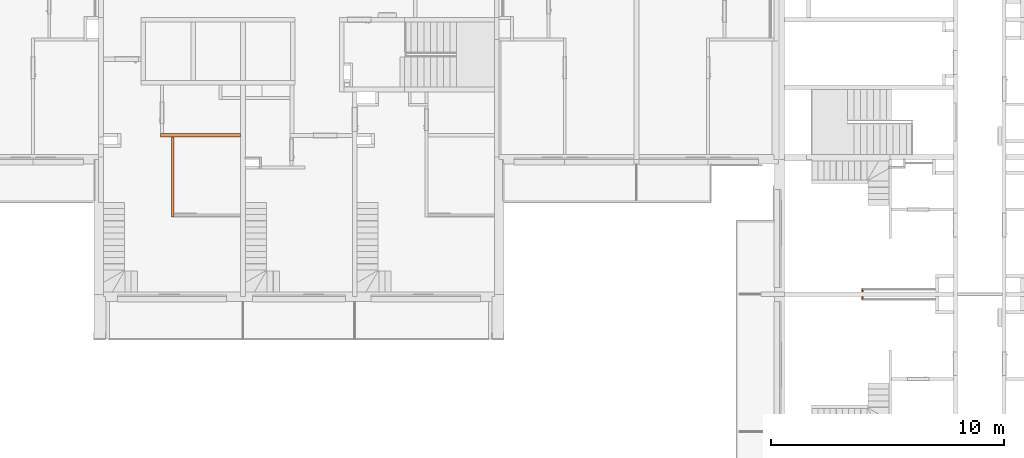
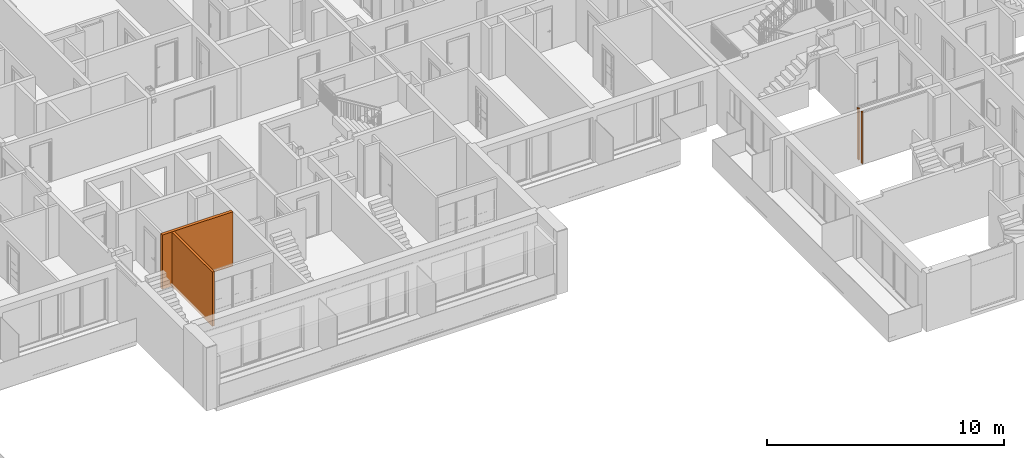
# One storey, part 51 of 61: 4 proxies.
"""IFC2X3 building model written with IfcOpenShell, lengths in millimetres."""

from ifc_helpers import new_model, entity, si_unit, converted_unit, derived_unit, money_unit, direction, frame, origin_with_axes, place, context, subcontext, project, spatial, faceted_brep, material, material_list, type_object, element, save


model = new_model("IFC2X3")

# Units and contexts
model_context = context("Model", 3, precision=0.01, world=origin_with_axes(), true_north=direction((0.34421633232, 0.938890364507)))
body_context = subcontext(model_context, "Body", "Model", "MODEL_VIEW")
ifc_project = project(units=[si_unit("LENGTHUNIT", "METRE", prefix="MILLI"), si_unit("AREAUNIT", "SQUARE_METRE"), si_unit("VOLUMEUNIT", "CUBIC_METRE"), converted_unit("PLANEANGLEUNIT", "DEGREE", entity("IfcPlaneAngleMeasure", 0.0174532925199), si_unit("PLANEANGLEUNIT", "RADIAN"), dimensions=[0, 0, 0, 0, 0, 0, 0]), si_unit("SOLIDANGLEUNIT", "STERADIAN"), money_unit("USD"), converted_unit("TIMEUNIT", "Year", entity("IfcTimeMeasure", 31556926.0), si_unit("TIMEUNIT", "SECOND"), dimensions=[0, 0, 1, 0, 0, 0, 0]), si_unit("MASSUNIT", "GRAM", prefix="KILO"), si_unit("THERMODYNAMICTEMPERATUREUNIT", "DEGREE_CELSIUS"), si_unit("LUMINOUSINTENSITYUNIT", "LUMEN"), si_unit("ENERGYUNIT", "JOULE", prefix="MEGA"), derived_unit("THERMALCONDUCTANCEUNIT", [(si_unit("POWERUNIT", "WATT"), 1), (si_unit("LENGTHUNIT", "METRE"), -1), (si_unit("THERMODYNAMICTEMPERATUREUNIT", "KELVIN"), -1)]), derived_unit("SPECIFICHEATCAPACITYUNIT", [(si_unit("ENERGYUNIT", "JOULE"), 1), (si_unit("MASSUNIT", "GRAM", prefix="KILO"), -1), (si_unit("THERMODYNAMICTEMPERATUREUNIT", "KELVIN"), -1)]), derived_unit("MASSDENSITYUNIT", [(si_unit("MASSUNIT", "GRAM", prefix="KILO"), 1), (si_unit("VOLUMEUNIT", "CUBIC_METRE"), -1)])], contexts=[model_context])

# Site, building, storey
site_placement = place(None, origin_with_axes())
site = spatial("IfcSite", under=ifc_project, at=site_placement, Name="USTRONIE MORSKIE", CompositionType="ELEMENT")
building_placement = place(site_placement, origin_with_axes())
building = spatial("IfcBuilding", under=site, at=building_placement, Name="Budynek", CompositionType="ELEMENT")
storey_placement = place(building_placement, frame((0.0, 0.0, 13000.0), z_axis=(0.0, 0.0, 1.0), x_axis=(1.0, 0.0, 0.0)))
storey = spatial("IfcBuildingStorey", under=building, at=storey_placement, Name="PIĘTRO 4", CompositionType="ELEMENT", Elevation=13000.0)

# Proxies
ifc_material_1 = material(Name="Bloczki silikatowe")
building_element_proxy_type_1 = type_object("IfcBuildingElementProxyType", Name="Bloczki silikatowe 120", PredefinedType="NOTDEFINED")
proxy_1_placement = place(storey_placement, frame((382397.920919, 724391.199036, -160.0), z_axis=(0.0, 0.0, 1.0), x_axis=(0.0, 1.0, 0.0)))
element("IfcBuildingElementProxy", 1, at=proxy_1_placement, inside=storey, type_object=building_element_proxy_type_1, material=ifc_material_1, Name="SW-04", context=body_context, shape_type="Brep", body=[
    faceted_brep([(3360.0, 60.0, 0.0), (3360.0, -60.0, 0.0), (-59.9999999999, -60.0, 0.0), (-59.9999999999, 60.0, 0.0), (3360.0, 60.0, 2800.0), (3360.0, -60.0, 2800.0), (-59.9999999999, -60.0, 2800.0), (-59.9999999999, 60.0, 2800.0)], [[[0, 1, 2, 3]], [[1, 0, 4, 5]], [[1, 5, 6, 2]], [[7, 3, 2, 6]], [[4, 0, 3, 7]], [[5, 4, 7, 6]]]),
])
ifc_material_2 = material(Name="Płyta GK")
ifc_material_3 = material(Name="-Pustka powietrzna")
ifc_material_list_1 = material_list([ifc_material_2, ifc_material_2, ifc_material_3])
building_element_proxy_type_2 = type_object("IfcBuildingElementProxyType", Name="330-SD GK 2-warstwy 75", PredefinedType="NOTDEFINED")
proxy_2_placement = place(storey_placement, frame((412017.920919, 721001.199036, -180.0), z_axis=(0.0, 0.0, 1.0), x_axis=(0.0, 1.0, 0.0)))
element("IfcBuildingElementProxy", 2, at=proxy_2_placement, inside=storey, type_object=building_element_proxy_type_2, material=ifc_material_list_1, Name="Ściana-009", context=body_context, shape_type="Brep", body=[
    faceted_brep([(100.0, 12.5, 165.0), (242.5, 12.5, 165.0), (242.5, 12.5, 2820.0), (100.0, 12.5, 2820.0), (242.5, 25.0, 165.0), (100.0, 25.0, 165.0), (242.5, 25.0, 2820.0), (100.0, 25.0, 2820.0)], [[[0, 1, 2, 3]], [[4, 1, 0, 5]], [[1, 4, 6, 2]], [[6, 7, 3, 2]], [[5, 0, 3, 7]], [[4, 5, 7, 6]]]),
    faceted_brep([(100.0, 0.0, 165.0), (230.0, 0.0, 165.0), (230.0, 0.0, 2820.0), (100.0, 0.0, 2820.0), (230.0, 12.5, 165.0), (100.0, 12.5, 165.0), (230.0, 12.5, 2820.0), (100.0, 12.5, 2820.0)], [[[0, 1, 2, 3]], [[4, 1, 0, 5]], [[1, 4, 6, 2]], [[6, 7, 3, 2]], [[5, 0, 3, 7]], [[4, 5, 7, 6]]]),
    faceted_brep([(100.0, -50.0, 180.0), (180.0, -50.0, 180.0), (180.0, -50.0, 2820.0), (100.0, -50.0, 2820.0), (180.0, 0.0, 180.0), (100.0, 0.0, 180.0), (180.0, 0.0, 2820.0), (100.0, 0.0, 2820.0)], [[[0, 1, 2, 3]], [[4, 1, 0, 5]], [[1, 4, 6, 2]], [[6, 7, 3, 2]], [[5, 0, 3, 7]], [[4, 5, 7, 6]]]),
])
ifc_material_list_2 = material_list([ifc_material_3, ifc_material_2, ifc_material_2])
proxy_3_placement = place(storey_placement, frame((412017.920919, 721001.199036, -180.0), z_axis=(0.0, 0.0, 1.0), x_axis=(0.0, -1.0, 0.0)))
element("IfcBuildingElementProxy", 3, at=proxy_3_placement, inside=storey, type_object=building_element_proxy_type_2, material=ifc_material_list_2, Name="Ściana-009", context=body_context, shape_type="Brep", body=[
    faceted_brep([(180.0, 50.0, 180.0), (100.0, 50.0, 180.0), (100.0, 50.0, 2820.0), (180.0, 50.0, 2820.0), (100.0, 0.0, 180.0), (180.0, 0.0, 180.0), (100.0, 0.0, 2820.0), (180.0, 0.0, 2820.0)], [[[0, 1, 2, 3]], [[4, 1, 0, 5]], [[1, 4, 6, 2]], [[3, 2, 6, 7]], [[5, 0, 3, 7]], [[4, 5, 7, 6]]]),
    faceted_brep([(230.0, 0.0, 165.0), (100.0, 0.0, 165.0), (100.0, 0.0, 2820.0), (230.0, 0.0, 2820.0), (100.0, -12.5, 165.0), (230.0, -12.5, 165.0), (100.0, -12.5, 2820.0), (230.0, -12.5, 2820.0)], [[[0, 1, 2, 3]], [[4, 1, 0, 5]], [[1, 4, 6, 2]], [[3, 2, 6, 7]], [[5, 0, 3, 7]], [[4, 5, 7, 6]]]),
    faceted_brep([(242.5, -12.5, 165.0), (100.0, -12.5, 165.0), (100.0, -12.5, 2820.0), (242.5, -12.5, 2820.0), (100.0, -25.0, 165.0), (242.5, -25.0, 165.0), (100.0, -25.0, 2820.0), (242.5, -25.0, 2820.0)], [[[0, 1, 2, 3]], [[4, 1, 0, 5]], [[1, 4, 6, 2]], [[3, 2, 6, 7]], [[5, 0, 3, 7]], [[4, 5, 7, 6]]]),
])
building_element_proxy_type_3 = type_object("IfcBuildingElementProxyType", Name="Bloczki silikatowe 150", PredefinedType="NOTDEFINED")
proxy_4_placement = place(storey_placement, frame((385417.920919, 727826.199036, -160.0), z_axis=(0.0, 0.0, 1.0), x_axis=(-1.0, 0.0, 0.0)))
element("IfcBuildingElementProxy", 4, at=proxy_4_placement, inside=storey, type_object=building_element_proxy_type_3, material=ifc_material_1, Name="SW-03", context=body_context, shape_type="Brep", body=[
    faceted_brep([(3540.0, 75.0, 0.0), (3540.0, -75.0, 0.0), (100.0, -75.0, 0.0), (100.0, 75.0, 0.0), (3540.0, 75.0, 2800.0), (3540.0, -75.0, 2800.0), (100.0, -75.0, 2800.0), (100.0, 75.0, 2800.0)], [[[0, 1, 2, 3]], [[1, 0, 4, 5]], [[1, 5, 6, 2]], [[7, 3, 2, 6]], [[4, 0, 3, 7]], [[5, 4, 7, 6]]]),
])

save(model, "model.ifc")
